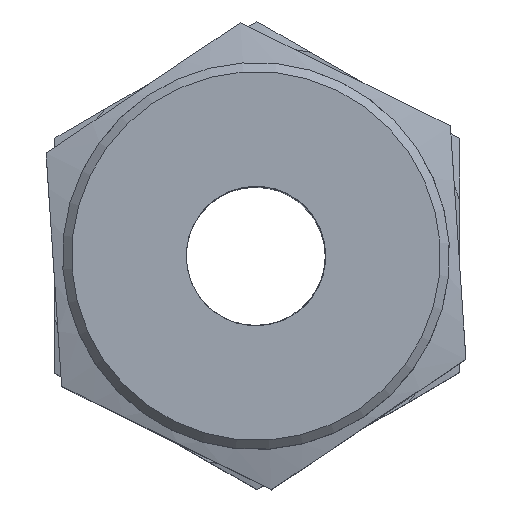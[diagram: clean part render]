
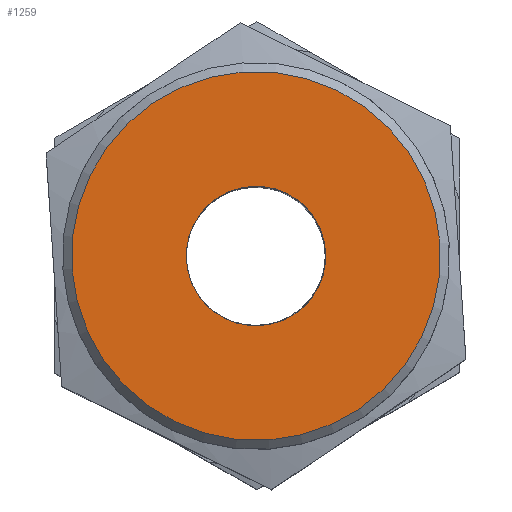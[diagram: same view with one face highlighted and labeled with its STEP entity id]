
A CAD part, top view. The second image highlights one B-rep face of the part: STEP entity #1259.
In plain terms, the highlighted planar face has unit normal (0, 0, 1) as drawn and (0, 1, 0) by its records, which use the part's own axes.
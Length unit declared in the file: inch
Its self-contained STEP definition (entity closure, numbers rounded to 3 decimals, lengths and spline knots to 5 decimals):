
#235=PLANE('',#1362);
#277=FACE_BOUND('',#414,.T.);
#317=FACE_OUTER_BOUND('',#413,.T.);
#413=EDGE_LOOP('',(#910));
#414=EDGE_LOOP('',(#911));
#518=CIRCLE('',#1359,0.25375);
#520=CIRCLE('',#1363,0.096);
#577=VERTEX_POINT('',#3048);
#579=VERTEX_POINT('',#3054);
#711=EDGE_CURVE('',#577,#577,#518,.T.);
#713=EDGE_CURVE('',#579,#579,#520,.T.);
#910=ORIENTED_EDGE('',*,*,#711,.F.);
#911=ORIENTED_EDGE('',*,*,#713,.T.);
#1259=ADVANCED_FACE('',(#317,#277),#235,.T.);
#1359=AXIS2_PLACEMENT_3D('',#3049,#1538,#1539);
#1362=AXIS2_PLACEMENT_3D('',#3053,#1544,#1545);
#1363=AXIS2_PLACEMENT_3D('',#3055,#1546,#1547);
#1538=DIRECTION('center_axis',(0.,-1.,0.));
#1539=DIRECTION('ref_axis',(-1.,0.,0.));
#1544=DIRECTION('center_axis',(0.,1.,0.));
#1545=DIRECTION('ref_axis',(0.,0.,1.));
#1546=DIRECTION('center_axis',(0.,-1.,0.));
#1547=DIRECTION('ref_axis',(-1.,0.,0.));
#3048=CARTESIAN_POINT('',(0.25375,0.475,0.));
#3049=CARTESIAN_POINT('Origin',(0.,0.475,0.));
#3053=CARTESIAN_POINT('Origin',(0.,0.475,0.));
#3054=CARTESIAN_POINT('',(0.096,0.475,0.));
#3055=CARTESIAN_POINT('Origin',(0.,0.475,0.));
